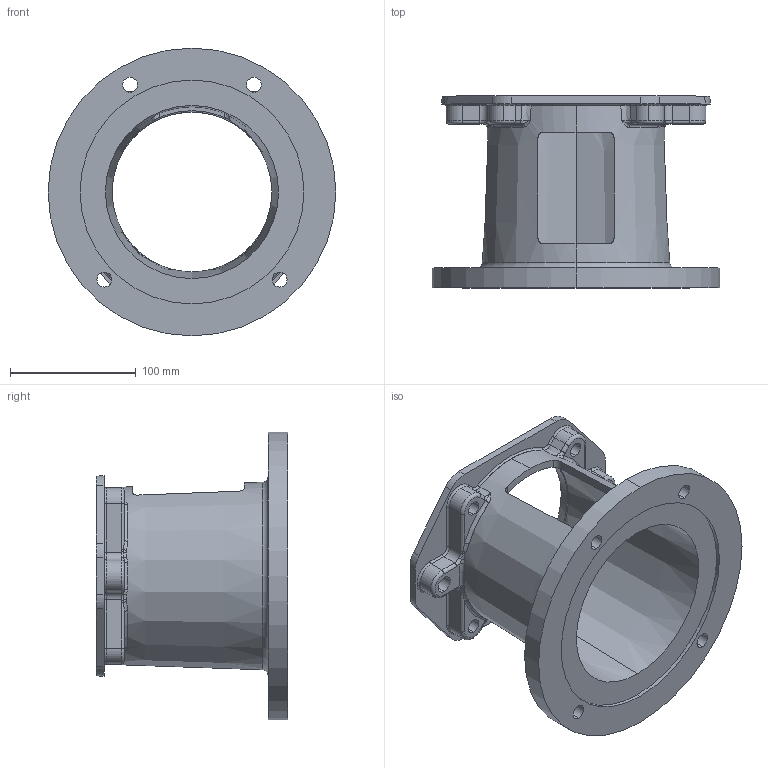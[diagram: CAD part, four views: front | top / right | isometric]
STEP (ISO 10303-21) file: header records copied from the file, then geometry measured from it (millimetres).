
FILE_DESCRIPTION (( 'STEP AP203' ), '1' );
FILE_NAME ('E700602C.STEP', '2014-11-04T13:12:07', ( '' ), ( '' ), 'SwSTEP 2.0', 'SolidWorks 2014', '' );
FILE_SCHEMA (( 'CONFIG_CONTROL_DESIGN' ));
Length unit declared in the file: inch
Products named in the file (1): E700602C
Bounding box: 228.6 x 152.4 x 228.6 mm (x, y, z)
Volume: 862118.1 mm3; surface area: 214223.9 mm2
Topology: 1 solids, 1 shells, 230 faces, 591 edges, 352 vertices
Faces by surface type: cylinder 74, bspline 56, torus 53, plane 35, sphere 8, cone 4
Entity records: 9189 total; most frequent: CARTESIAN_POINT 3864, ORIENTED_EDGE 1158, DIRECTION 1070, EDGE_CURVE 579, AXIS2_PLACEMENT_3D 464, VERTEX_POINT 352, CIRCLE 289, EDGE_LOOP 255
